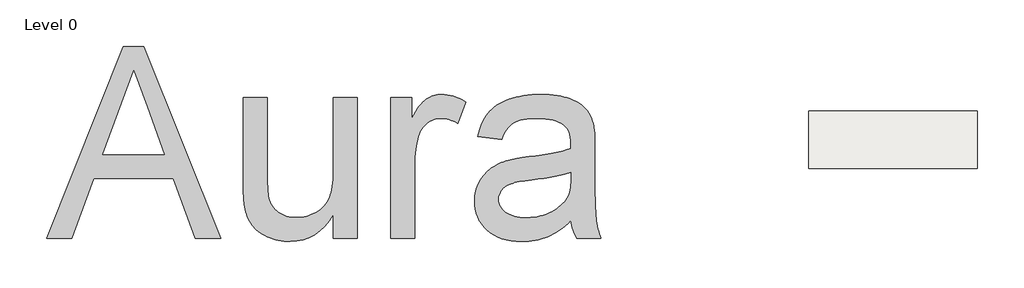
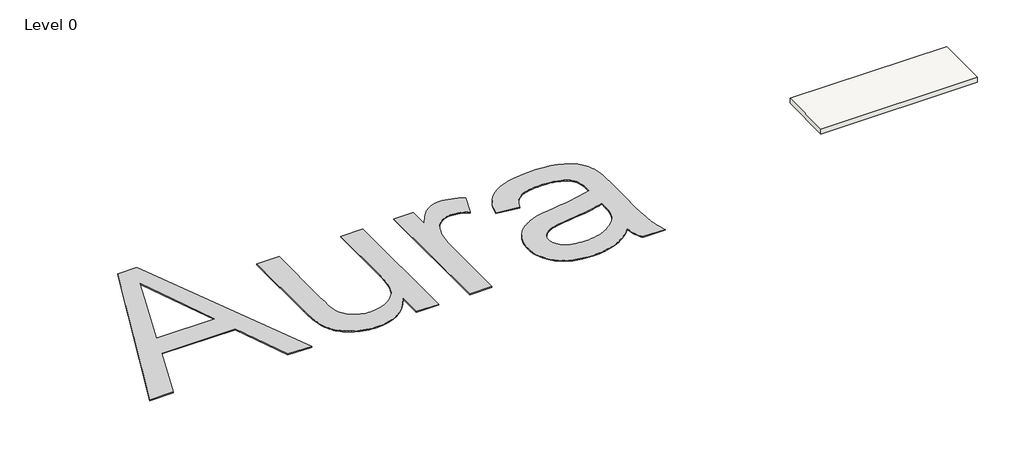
# One storey, incomplete: 1 proxy, 1 slab.
"""IFC4 building model written with IfcOpenShell, lengths in millimetres."""

from ifc_helpers import new_model, si_unit, frame, origin, origin_with_axes, place, context, project, spatial, polyline, outline, extrude, element, save

model = new_model("IFC4")

# Units and contexts
model_context = context("Model", 3, world=origin())
ifc_project = project(units=[si_unit("LENGTHUNIT", "METRE", prefix="MILLI")], contexts=[model_context])

# Site, building, storey
site = spatial("IfcSite", under=ifc_project)
building = spatial("IfcBuilding", under=site)
storey = spatial("IfcBuildingStorey", under=building, Name="Level 0", Elevation=0.0)

# Proxy
placement = place(None, origin())
element("IfcBuildingElementProxy", 1, Name="10 mm", ObjectType="10 mm", at=placement, inside=storey, context=model_context, shape_type="SweptSolid", body=[
    extrude(outline(polyline([(-144866.3105909, 70710.4267394), (-140856.3968435, 80756.0577544), (-139787.0865109, 80756.0577544), (-135777.1727634, 70710.4267394), (-137104.0004927, 70710.4267394), (-138254.2448643, 73849.6864316), (-142391.6910367, 73849.6864316), (-143539.4828617, 70710.4267394), (-144866.3105909, 70710.4267394)]), holes=[polyline([(-141930.6122694, 75105.3903085), (-138712.871085, 75105.3903085), (-139617.8607931, 77575.1047694), (-140321.7416772, 79500.3538775), (-140947.141069, 77790.9288732), (-141930.6122694, 75105.3903085)])]), origin_with_axes(), (0.0, 0.0, 1.0), 50.0),
    extrude(outline(polyline([(-129883.7032007, 70710.4267394), (-129883.7032007, 71978.3933495), (-130101.5199987, 71644.4254757), (-130338.0374648, 71354.9866518), (-130593.2555989, 71110.0768777), (-130867.1744011, 70909.6961535), (-131159.7938715, 70753.844479), (-131471.1140099, 70642.5218545), (-131801.1348164, 70575.7282797), (-132149.856291, 70553.4637548), (-132306.723473, 70557.372501), (-132460.9465032, 70569.0987396), (-132612.5253815, 70588.6424706), (-132761.460108, 70616.003694), (-132907.7506826, 70651.1824098), (-133051.3971054, 70694.178618), (-133192.3993764, 70744.9923185), (-133330.7574955, 70803.6235115), (-133463.386619, 70868.1561448), (-133587.201903, 70936.6741664), (-133702.2033475, 71009.1775763), (-133808.3909526, 71085.6663745), (-133905.7647182, 71166.1405609), (-133994.3246443, 71250.6001357), (-134074.070731, 71339.0450987), (-134145.0029782, 71431.47545), (-134209.0565985, 71528.5426472), (-134268.1668045, 71630.8981482), (-134322.3335962, 71738.5419528), (-134371.5569735, 71851.4740611), (-134415.8369366, 71969.6944731), (-134455.1734854, 72093.2031888), (-134489.5666198, 72222.0002081), (-134519.0163399, 72356.0855312), (-134536.2608085, 72454.8005332), (-134551.2060145, 72567.0045417), (-134563.8519581, 72692.6975568), (-134574.1986392, 72831.8795783), (-134587.994214, 73150.7106407), (-134592.592739, 73523.4977292), (-134592.592739, 78087.687016), (-133336.8888621, 78087.687016), (-133336.8888621, 74114.5614681), (-133332.137053, 73678.6213038), (-133317.8816257, 73319.9363585), (-133307.1900552, 73169.564593), (-133294.1225802, 73038.5066322), (-133278.6792006, 72926.7624762), (-133260.8599164, 72834.3321249), (-133227.3481659, 72717.9702834), (-133185.6740337, 72608.0080558), (-133135.8375196, 72504.445442), (-133077.8386238, 72407.2824422), (-133011.6773463, 72316.5190562), (-132937.3536869, 72232.155284), (-132854.8676458, 72154.1911258), (-132764.2192229, 72082.6265814), (-132666.7113337, 72018.5346401), (-132563.6468935, 71962.9882909), (-132455.0259023, 71915.9875339), (-132340.8483602, 71877.5323691), (-132221.114267, 71847.6227965), (-132095.823623, 71826.258816), (-131964.9764279, 71813.4404278), (-131828.5726819, 71809.1676317), (-131689.8696734, 71813.5362304), (-131553.3509642, 71826.6420264), (-131419.0165544, 71848.4850199), (-131286.866444, 71879.0652108), (-131156.9006329, 71918.382599), (-131029.1191211, 71966.4371846), (-130903.5219087, 72023.2289676), (-130780.1089956, 72088.757948), (-130662.2526335, 72161.817013), (-130553.325074, 72241.1990498), (-130453.3263171, 72326.9040583), (-130362.2563628, 72418.9320387), (-130280.115211, 72517.2829908), (-130206.9028619, 72621.9569148), (-130142.6193153, 72732.9538105), (-130087.2645714, 72850.273678), (-130039.5548751, 72977.5570162), (-129998.2064717, 73118.4443241), (-129963.2193611, 73272.9356015), (-129934.5935434, 73441.0308486), (-129912.3290185, 73622.7300653), (-129896.4257864, 73818.0332516), (-129886.8838471, 74026.9404075), (-129883.7032007, 74249.451533), (-129883.7032007, 78087.687016), (-128627.9993238, 78087.687016), (-128627.9993238, 70710.4267394), (-129883.7032007, 70710.4267394)])), origin_with_axes(), (0.0, 0.0, 1.0), 50.0),
    extrude(outline(polyline([(-126901.4064931, 70710.4267394), (-126901.4064931, 78087.687016), (-125802.6656009, 78087.687016), (-125802.6656009, 76996.3037637), (-125698.2024427, 77178.8652038), (-125595.7319786, 77345.1785224), (-125495.2542087, 77495.2437196), (-125396.7691329, 77629.0607954), (-125300.2767512, 77746.6297497), (-125205.7770637, 77847.9505825), (-125113.2700703, 77933.0232939), (-125022.7557711, 78001.8478838), (-124932.1648298, 78058.7546299), (-124839.4279102, 78108.0738099), (-124744.5450123, 78149.8054237), (-124647.516136, 78183.9494714), (-124548.3412815, 78210.505953), (-124447.0204487, 78229.4748683), (-124343.5536375, 78240.8562176), (-124237.9408481, 78244.6500006), (-124082.5107051, 78238.5952761), (-123926.4674255, 78220.4311026), (-123769.8110092, 78190.1574801), (-123612.5414563, 78147.7744086), (-123454.6587667, 78093.281888), (-123296.1629404, 78026.6799185), (-123137.0539775, 77947.9684999), (-122977.3318779, 77857.1476324), (-123396.7173524, 76731.4287271), (-123507.081951, 76791.784367), (-123617.4465495, 76844.0925882), (-123727.8111481, 76888.3533907), (-123838.1757466, 76924.5667746), (-123948.5403452, 76952.7327399), (-124058.9049437, 76972.8512865), (-124169.2695423, 76984.9224144), (-124279.6341408, 76988.9461238), (-124377.1037091, 76985.0756986), (-124472.0824096, 76973.4644231), (-124564.5702424, 76954.1122973), (-124654.5672076, 76927.0193212), (-124742.0733051, 76892.1854948), (-124827.0885349, 76849.6108181), (-124909.6128971, 76799.295291), (-124989.6463915, 76741.2389137), (-125065.6561767, 76676.3230699), (-125136.1094109, 76605.4291438), (-125201.0060941, 76528.5571352), (-125260.3462263, 76445.7070442), (-125314.1298076, 76356.8788708), (-125362.3568379, 76262.072615), (-125405.0273172, 76161.2882767), (-125442.1412456, 76054.525856), (-125489.8509419, 75885.1468541), (-125531.1993453, 75711.7824638), (-125566.1864559, 75534.4326853), (-125594.8122736, 75353.0975185), (-125617.0767985, 75167.7769635), (-125632.9800306, 74978.4710201), (-125642.5219699, 74785.1796885), (-125645.7026163, 74587.9029686), (-125645.7026163, 70710.4267394), (-126901.4064931, 70710.4267394)])), origin_with_axes(), (0.0, 0.0, 1.0), 50.0),
    extrude(outline(polyline([(-117483.6274166, 71652.2046471), (-117631.9490064, 71506.92958), (-117781.3819065, 71372.7676149), (-117931.9261167, 71249.7187517), (-118083.5816371, 71137.7829905), (-118236.3484677, 71036.9603312), (-118390.2266085, 70947.2507738), (-118545.2160595, 70868.6543184), (-118701.3168207, 70801.1709649), (-118859.410276, 70743.1145875), (-119020.3778094, 70692.7990605), (-119184.2194209, 70650.2243837), (-119350.9351105, 70615.3905573), (-119520.5248781, 70588.2975812), (-119692.9887239, 70568.9454554), (-119868.3266477, 70557.33418), (-120046.5386497, 70553.4637548), (-120334.6937187, 70562.7757678), (-120605.6426403, 70590.7118068), (-120859.3854143, 70637.2718718), (-121095.9220409, 70702.4559628), (-121315.25252, 70786.2640799), (-121517.3768516, 70888.6962229), (-121702.2950358, 71009.7523919), (-121870.0070724, 71149.432587), (-122019.1717252, 71303.5981356), (-122148.4477575, 71468.1103653), (-122257.8351695, 71642.9692761), (-122347.3339612, 71828.1748681), (-122416.9441325, 72023.7271412), (-122466.6656834, 72229.6260953), (-122496.4986139, 72445.8717306), (-122506.4429241, 72672.464047), (-122502.6874621, 72807.0858646), (-122491.421076, 72938.718641), (-122472.6437658, 73067.3623762), (-122446.3555316, 73193.0170702), (-122412.5563732, 73315.682723), (-122371.2462909, 73435.3593345), (-122322.4252844, 73552.0469049), (-122266.0933539, 73665.745434), (-122203.6492173, 73775.1903276), (-122136.4915927, 73879.1169912), (-122064.62048, 73977.5254249), (-121988.0358792, 74070.4156287), (-121906.7377904, 74157.7876025), (-121820.7262135, 74239.6413465), (-121730.0011485, 74315.9768605), (-121634.5625955, 74386.7941445), (-121535.2536174, 74452.7829774), (-121432.9172769, 74514.6331379), (-121327.5535742, 74572.3446259), (-121219.1625093, 74625.9174414), (-121107.7440821, 74675.3515845), (-120993.2982927, 74720.6470552), (-120875.825141, 74761.8038534), (-120755.3246271, 74798.8219791), (-120552.2231089, 74847.4130593), (-120303.4429096, 74895.0844345), (-120008.9840293, 74941.8361048), (-119668.846468, 74987.66807), (-119311.3111539, 75034.1131719), (-118978.148022, 75082.7042521), (-118669.3570723, 75133.4413106), (-118384.9383048, 75186.3243474), (-118124.8917195, 75241.3533625), (-117889.2173163, 75298.5283559), (-117677.9150953, 75357.8493276), (-117490.9850565, 75419.3162777), (-117483.6274166, 75698.906594), (-117489.0306834, 75857.172494), (-117505.2404838, 76003.328945), (-117532.2568179, 76137.375947), (-117570.0796855, 76259.3135), (-117618.7090867, 76369.141604), (-117678.1450216, 76466.8602589), (-117748.38749, 76552.4694649), (-117829.4364921, 76625.9692219), (-117953.0601709, 76711.0419332), (-118090.939277, 76784.7716164), (-118243.0738104, 76847.1582715), (-118409.4637711, 76898.2018983), (-118590.1091592, 76937.9024969), (-118785.0099746, 76966.2600674), (-118994.1662172, 76983.2746097), (-119217.5778872, 76988.9461238), (-119425.7377828, 76985.1715012), (-119619.7955353, 76973.8476335), (-119799.7511446, 76954.9745208), (-119965.6046107, 76928.5521629), (-120117.3559338, 76894.5805599), (-120255.0051136, 76853.0597118), (-120378.5521503, 76803.9896186), (-120487.9970439, 76747.3702803), (-120587.0569353, 76681.1323606), (-120679.4489656, 76603.2065234), (-120765.1731346, 76513.5927686), (-120844.2294426, 76412.2910963), (-120916.6178893, 76299.3015064), (-120982.3384749, 76174.623999), (-121041.3911993, 76038.258574), (-121093.7760626, 75890.2052315), (-122349.4799395, 76047.1682161), (-122305.0466923, 76232.6420553), (-122253.9072628, 76408.9188447), (-122196.0616512, 76575.9985842), (-122131.5098573, 76733.8812738), (-122060.2518813, 76882.5669135), (-121982.2877231, 77022.0555033), (-121897.6173826, 77152.3470433), (-121806.2408599, 77273.4415334), (-121706.2612635, 77386.6035679), (-121595.7817019, 77493.0977413), (-121474.8021749, 77592.9240536), (-121343.3226827, 77686.0825046), (-121201.3432252, 77772.5730945), (-121048.8638024, 77852.3958233), (-120885.8844143, 77925.5506909), (-120712.405061, 77992.0376973), (-120530.1310287, 78051.2437059), (-120340.7676037, 78102.55558), (-120144.3147862, 78145.9733196), (-119940.7725761, 78181.4969248), (-119730.1409733, 78209.1263955), (-119512.4199779, 78228.8617317), (-119287.6095899, 78240.7029334), (-119055.7098093, 78244.6500006), (-118826.9906752, 78241.1627859), (-118609.2696798, 78230.7011416), (-118402.5468232, 78213.2650679), (-118206.8221055, 78188.8545647), (-118022.0955265, 78157.469632), (-117848.3670864, 78119.1102698), (-117685.6367851, 78073.7764781), (-117533.9046226, 78021.4682569), (-117392.5191412, 77963.8908925), (-117260.8288833, 77902.7496714), (-117138.8338487, 77838.0445934), (-117026.5340376, 77769.7756585), (-116923.9294499, 77697.9428669), (-116831.0200856, 77622.5462184), (-116747.8059447, 77543.5857131), (-116674.2870272, 77461.0613509), (-116608.1832312, 77373.9767849), (-116547.2144547, 77281.3356678), (-116491.3806978, 77183.1379999), (-116440.6819603, 77079.3837809), (-116395.1182423, 76970.073011), (-116354.6895439, 76855.2056901), (-116319.395865, 76734.7818182), (-116289.2372056, 76608.8013954), (-116274.8668152, 76521.8892741), (-116262.4124768, 76420.5684412), (-116243.2519562, 76174.7006411), (-116231.7556439, 75871.1979951), (-116227.9235397, 75510.0605032), (-116227.9235397, 73947.788297), (-116223.9381515, 73199.8382155), (-116211.9819866, 72586.9314831), (-116203.014863, 72331.1193728), (-116192.0550452, 72109.0680998), (-116179.1025333, 71920.7776641), (-116164.1573272, 71766.2480656), (-116146.2997221, 71629.307825), (-116124.6100128, 71493.7854629), (-116099.0881994, 71359.6809793), (-116069.7342818, 71226.9943743), (-116036.5482602, 71095.7256478), (-115999.5301344, 70965.8747998), (-115958.6799045, 70837.4418303), (-115913.9975705, 70710.4267394), (-117169.7014474, 70710.4267394), (-117228.2559983, 70813.1271297), (-117281.2923193, 70920.1194767), (-117328.8104103, 71031.4037802), (-117370.8102714, 71146.9800404), (-117407.2919026, 71266.8482571), (-117438.2553039, 71391.0084305), (-117463.7004752, 71519.4605605), (-117483.6274166, 71652.2046471)]), holes=[polyline([(-117483.6274166, 74163.6124008), (-117662.8166051, 74108.2384963), (-117863.1590083, 74054.9339281), (-118084.6546262, 74003.698696), (-118327.3034589, 73954.5328002), (-118591.1055063, 73907.4362406), (-118876.0607684, 73862.4090173), (-119182.1692452, 73819.4511301), (-119509.4309367, 73778.5625792), (-119862.9808625, 73731.810909), (-120160.8886365, 73682.3001238), (-120288.9767166, 73656.5100631), (-120403.1542588, 73630.0302236), (-120503.421263, 73602.8606054), (-120589.7777292, 73575.0012085), (-120666.8988246, 73545.1491175), (-120739.459716, 73512.0014168), (-120807.4604036, 73475.5581067), (-120870.9008872, 73435.819187), (-120929.781167, 73392.7846578), (-120984.1012428, 73346.454519), (-121033.8611148, 73296.8287707), (-121079.0607828, 73243.9074129), (-121119.297876, 73188.6101505), (-121154.1700235, 73131.8566885), (-121183.6772252, 73073.647027), (-121207.8194811, 73013.9811659), (-121226.5967913, 72952.8591052), (-121240.0091557, 72890.280845), (-121248.0565743, 72826.2463852), (-121250.7390472, 72760.7557259), (-121244.8950884, 72661.0826978), (-121227.3632121, 72565.6249843), (-121198.1434182, 72474.3825852), (-121157.2357068, 72387.3555008), (-121104.6400778, 72304.5437308), (-121040.3565312, 72225.9472754), (-120964.3850671, 72151.5661345), (-120876.7256855, 72081.4003081), (-120777.7615967, 72017.5957746), (-120667.8760111, 71962.2985122), (-120547.0689288, 71915.5085209), (-120415.3403498, 71877.2258008), (-120272.6902741, 71847.4503518), (-120119.1187016, 71826.1821739), (-119954.6256324, 71813.4212672), (-119779.2110665, 71809.1676317), (-119603.2408455, 71813.8619592), (-119432.1757177, 71827.9449418), (-119266.0156832, 71851.4165796), (-119104.760742, 71884.2768724), (-118948.4108941, 71926.5258202), (-118796.9661394, 71978.1634232), (-118650.426478, 72039.1896813), (-118508.7919098, 72109.6045944), (-118374.2084133, 72186.6873687), (-118248.8219666, 72267.7172102), (-118132.6325698, 72352.694119), (-118025.6402228, 72441.618095), (-117927.8449258, 72534.4891383), (-117839.2466786, 72631.3072488), (-117759.8454813, 72732.0724266), (-117689.6413339, 72836.7846715), (-117643.0812689, 72923.8500771), (-117602.7292126, 73020.7256691), (-117568.5851649, 73127.4114477), (-117540.6491259, 73243.9074129), (-117518.9210955, 73370.2135645), (-117503.4010739, 73506.3299028), (-117494.0890609, 73652.2564275), (-117490.9850565, 73807.9931388), (-117483.6274166, 74163.6124008)])]), origin_with_axes(), (0.0, 0.0, 1.0), 50.0),
])

# Slab
element("IfcSlab", 2, ObjectType="FL_300 mm_Generic", at=placement, inside=storey, context=model_context, shape_type="SweptSolid", body=[
    extrude(outline(polyline([(-96247.8885325, 77369.9753886), (-96247.8885325, 74369.9753886), (-105047.8885325, 74369.9753886), (-105047.8885325, 77369.9753886), (-96247.8885325, 77369.9753886)])), frame((0.0, 0.0, -300.0), z_axis=(0.0, 0.0, 1.0), x_axis=(1.0, 0.0, 0.0)), (0.0, 0.0, 1.0), 300.0),
])

save(model, "model.ifc")
